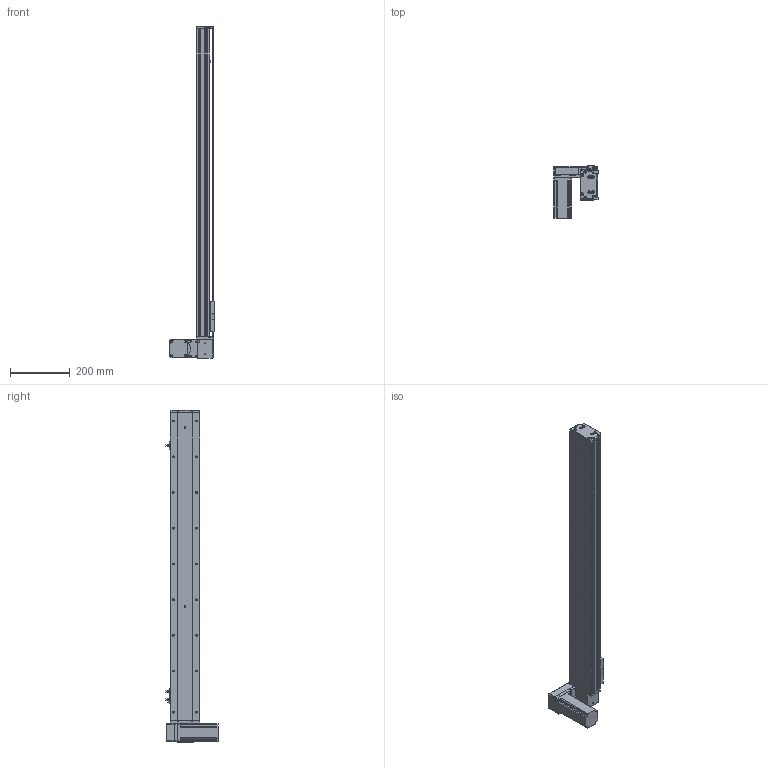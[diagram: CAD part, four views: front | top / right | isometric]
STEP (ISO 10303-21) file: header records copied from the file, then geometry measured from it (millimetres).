
FILE_DESCRIPTION (( 'STEP AP214' ), '1' );
FILE_NAME ('KSD100B-S850-MLD-CM.STEP', '2019-11-11T03:08:02', ( '微软用户' ), ( '微软中国' ), 'SwSTEP 2.0', 'SolidWorks 2014', '' );
FILE_SCHEMA (( 'AUTOMOTIVE_DESIGN' ));
Length unit declared in the file: millimetre
Products named in the file (12): 悵誘欶奻狟殏; 100宽马达安装板连板上下折丝杆同步带; 台达ECMA－C20604AS伺服电机; U倰嫖萇EEㄜSX672; 覜茼え100遵圉猾敕; 100宽防尘板850行程-同步带; 100宽马达安装板同步带左; 100宽同步带安装板半封闭; 100宽马达安装板同步带; 100遵傷啣肮祭湍; 100宽底板半封闭同步带850行程; KSD100B-S850-MLD-CM
Assembly tree (13 placements, depth 2):
  KSD100B-S850-MLD-CM
    100宽底板半封闭同步带850行程
    100遵傷啣肮祭湍
    100宽马达安装板同步带
    100宽同步带安装板半封闭
    100宽马达安装板同步带左
    100宽防尘板850行程-同步带
    覜茼え100遵圉猾敕
    U倰嫖萇EEㄜSX672  x3
    台达ECMA－C20604AS伺服电机
    100宽马达安装板连板上下折丝杆同步带
    悵誘欶奻狟殏
Bounding box: 148 x 174.7 x 1115 mm (x, y, z)
Volume: 2623046.4 mm3; surface area: 862104.3 mm2
Topology: 14 solids, 14 shells, 1427 faces, 4010 edges, 2557 vertices
Faces by surface type: cylinder 713, plane 587, cone 127
Entity records: 50423 total; most frequent: CARTESIAN_POINT 9824, DIRECTION 6942, ORIENTED_EDGE 6672, EDGE_CURVE 3336, AXIS2_PLACEMENT_3D 2533, VERTEX_POINT 2181, VECTOR 1876, LINE 1876
